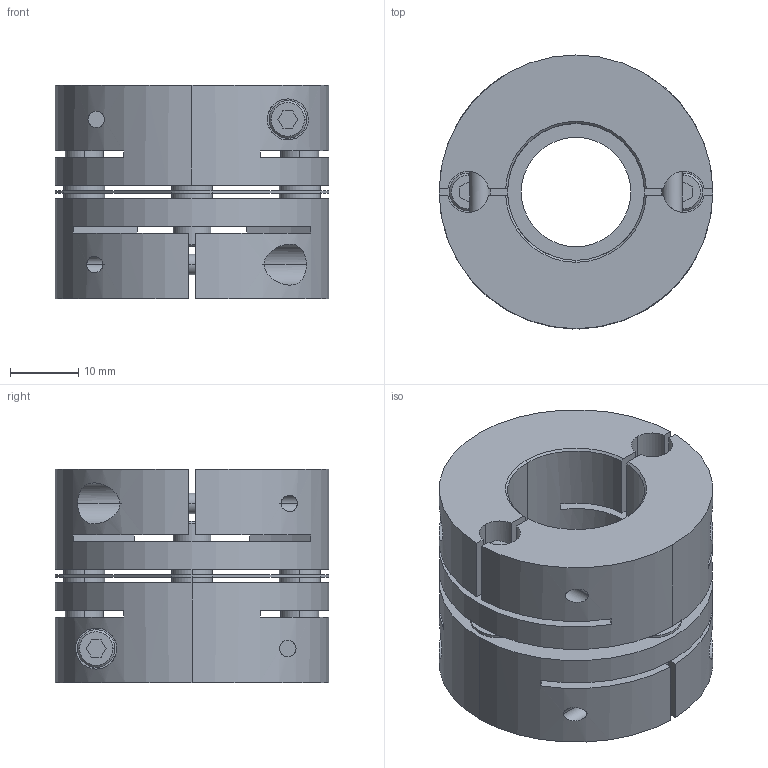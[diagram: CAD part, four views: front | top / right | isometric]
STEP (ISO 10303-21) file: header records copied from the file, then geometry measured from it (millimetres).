
FILE_DESCRIPTION((''),'2;1');
FILE_NAME('LAS-40C-19×20.stp','2011-08-11T09:10:41',(''),(''),'AutoCAD STEP 2000i','AutoCAD 2000i',', , ');
FILE_SCHEMA(('CONFIG_CONTROL_DESIGN'));
Length unit declared in the file: millimetre
Products named in the file (7): LAS-40C-15×15; 忣兜1; LA-4002-D15-1; LA-4002-D15; LA-4002-D10-1; LA-4002-D10; LAS40-ITA
Assembly tree (6 placements, depth 2):
  LAS-40C-15×15
    忣兜1
    LA-4002-D15-1
    LA-4002-D15
    LA-4002-D10-1
    LA-4002-D10
    LAS40-ITA
Bounding box: 40 x 40 x 31.2 mm (x, y, z)
Volume: 25710.4 mm3; surface area: 14588.9 mm2
Topology: 1 solids, 1 shells, 236 faces, 624 edges, 408 vertices
Faces by surface type: plane 112, cylinder 96, cone 28
Entity records: 8247 total; most frequent: CARTESIAN_POINT 2027, DIRECTION 1306, ORIENTED_EDGE 1248, EDGE_CURVE 624, AXIS2_PLACEMENT_3D 479, VERTEX_POINT 408, VECTOR 348, LINE 348
